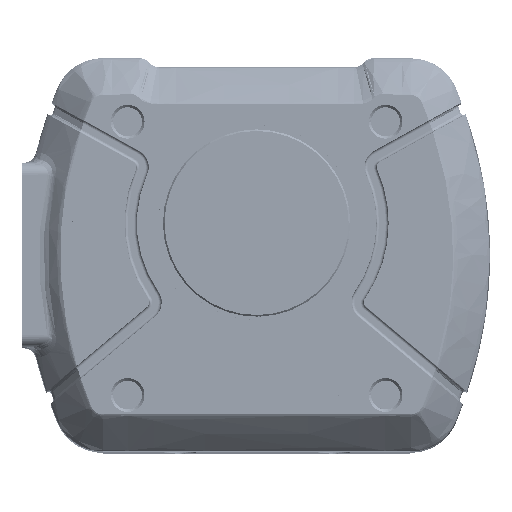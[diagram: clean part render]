
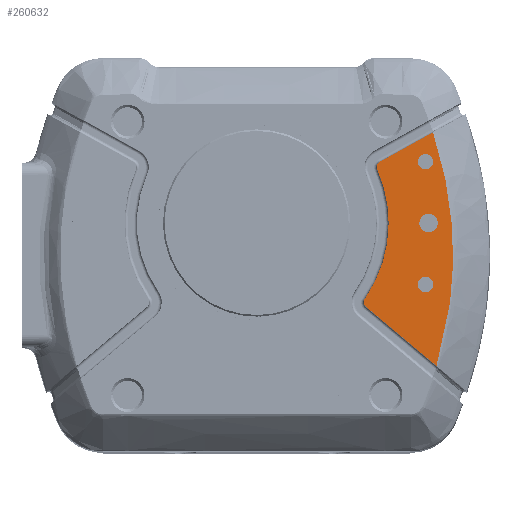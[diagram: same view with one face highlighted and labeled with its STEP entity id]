
A CAD part, top view. The second image highlights one B-rep face of the part: STEP entity #260632.
In plain terms, the highlighted planar face has unit normal (0, 0, 1).
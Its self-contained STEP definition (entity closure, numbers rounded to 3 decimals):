
#491 = ORIENTED_EDGE ( 'NONE', *, *, #39933, .F. ) ;
#782 = DIRECTION ( 'NONE',  ( 1., 0., 0. ) ) ;
#1227 = DIRECTION ( 'NONE',  ( 0., 0., -1. ) ) ;
#1568 = CARTESIAN_POINT ( 'NONE',  ( 29.285, -23.267, 13.007 ) ) ;
#3381 = VERTEX_POINT ( 'NONE', #323511 ) ;
#7298 = CARTESIAN_POINT ( 'NONE',  ( 32.089, -10.58, 13.007 ) ) ;
#26519 = DIRECTION ( 'NONE',  ( -1., 0., 0. ) ) ;
#29305 = CARTESIAN_POINT ( 'NONE',  ( 31.898, 2.078, 13.007 ) ) ;
#29607 = ORIENTED_EDGE ( 'NONE', *, *, #167687, .F. ) ;
#31731 = B_SPLINE_CURVE_WITH_KNOTS ( 'NONE', 3,
 ( #237662, #79813, #7298, #29305, #315088, #157154 ),
 .UNSPECIFIED., .F., .F.,
 ( 4, 2, 4 ),
 ( 0.134, 0.518, 0.903 ),
 .UNSPECIFIED. ) ;
#33476 = ORIENTED_EDGE ( 'NONE', *, *, #278009, .F. ) ;
#33529 = VERTEX_POINT ( 'NONE', #74221 ) ;
#39933 = EDGE_CURVE ( 'NONE', #172032, #49482, #202837, .T. ) ;
#41551 = FACE_OUTER_BOUND ( 'NONE', #44727, .T. ) ;
#42101 = CARTESIAN_POINT ( 'NONE',  ( 27.5, -10., 13.007 ) ) ;
#42900 = CIRCLE ( 'NONE', #230725, 1.5 ) ;
#44727 = EDGE_LOOP ( 'NONE', ( #212545, #68437, #270665, #318363, #150765, #29607, #203151 ) ) ;
#45174 = CARTESIAN_POINT ( 'NONE',  ( 0., 0., 13.007 ) ) ;
#45271 = CIRCLE ( 'NONE', #254721, 21.5 ) ;
#48005 = CARTESIAN_POINT ( 'NONE',  ( 20.571, 9.116, 13.007 ) ) ;
#49203 = EDGE_CURVE ( 'NONE', #217936, #3381, #59186, .T. ) ;
#49482 = VERTEX_POINT ( 'NONE', #100119 ) ;
#50279 = CARTESIAN_POINT ( 'NONE',  ( 20.086, 9.99, 13.007 ) ) ;
#53980 = CIRCLE ( 'NONE', #96993, 1.25 ) ;
#54947 = EDGE_CURVE ( 'NONE', #3381, #217936, #53980, .T. ) ;
#57446 = CARTESIAN_POINT ( 'NONE',  ( 18.453, -12.873, 13.007 ) ) ;
#57979 = EDGE_CURVE ( 'NONE', #316113, #163388, #277989, .T. ) ;
#59186 = CIRCLE ( 'NONE', #102218, 1.25 ) ;
#62013 = CARTESIAN_POINT ( 'NONE',  ( 19.656, 8.711, 13.007 ) ) ;
#63732 = VECTOR ( 'NONE', #283512, 1000. ) ;
#68437 = ORIENTED_EDGE ( 'NONE', *, *, #238107, .T. ) ;
#68784 = DIRECTION ( 'NONE',  ( 0., 0., 1. ) ) ;
#69044 = DIRECTION ( 'NONE',  ( 1., 0., 0. ) ) ;
#70136 = FACE_BOUND ( 'NONE', #130663, .T. ) ;
#74221 = CARTESIAN_POINT ( 'NONE',  ( 28.711, 14.771, 13.007 ) ) ;
#77791 = EDGE_CURVE ( 'NONE', #210709, #180640, #45271, .T. ) ;
#79813 = CARTESIAN_POINT ( 'NONE',  ( 31.186, -16.917, 13.007 ) ) ;
#81935 = DIRECTION ( 'NONE',  ( 0., 0., 1. ) ) ;
#84870 = DIRECTION ( 'NONE',  ( 0., 0., 1. ) ) ;
#85777 = AXIS2_PLACEMENT_3D ( 'NONE', #42101, #116106, #69044 ) ;
#86222 = DIRECTION ( 'NONE',  ( 0., 0., -1. ) ) ;
#88700 = VERTEX_POINT ( 'NONE', #184847 ) ;
#89841 = DIRECTION ( 'NONE',  ( 1., 0., 0. ) ) ;
#96993 = AXIS2_PLACEMENT_3D ( 'NONE', #291551, #84870, #89841 ) ;
#99516 = ORIENTED_EDGE ( 'NONE', *, *, #49203, .F. ) ;
#100119 = CARTESIAN_POINT ( 'NONE',  ( 28.75, -10., 13.007 ) ) ;
#101230 = DIRECTION ( 'NONE',  ( 0.875, 0.485, 0. ) ) ;
#101296 = EDGE_CURVE ( 'NONE', #180640, #316113, #317233, .T. ) ;
#102218 = AXIS2_PLACEMENT_3D ( 'NONE', #186135, #81935, #184466 ) ;
#104866 = DIRECTION ( 'NONE',  ( -1., 0., 0. ) ) ;
#106232 = CARTESIAN_POINT ( 'NONE',  ( -1.703, -2.087, 13.007 ) ) ;
#107848 = LINE ( 'NONE', #106232, #325991 ) ;
#107867 = DIRECTION ( 'NONE',  ( 1., 0., 0. ) ) ;
#111671 = AXIS2_PLACEMENT_3D ( 'NONE', #325870, #68784, #171292 ) ;
#116106 = DIRECTION ( 'NONE',  ( 0., 0., 1. ) ) ;
#122118 = FACE_BOUND ( 'NONE', #242983, .T. ) ;
#123228 = CARTESIAN_POINT ( 'NONE',  ( 21.5, 0., 13.007 ) ) ;
#130663 = EDGE_LOOP ( 'NONE', ( #198263, #180829 ) ) ;
#133743 = EDGE_CURVE ( 'NONE', #151091, #88700, #206296, .T. ) ;
#138716 = CARTESIAN_POINT ( 'NONE',  ( 28.75, 10., 13.007 ) ) ;
#147133 = DIRECTION ( 'NONE',  ( 0., 0., 1. ) ) ;
#150765 = ORIENTED_EDGE ( 'NONE', *, *, #57979, .T. ) ;
#151091 = VERTEX_POINT ( 'NONE', #287769 ) ;
#155926 = AXIS2_PLACEMENT_3D ( 'NONE', #45174, #1227, #26519 ) ;
#157154 = CARTESIAN_POINT ( 'NONE',  ( 28.711, 14.771, 13.007 ) ) ;
#160088 = DIRECTION ( 'NONE',  ( 0., 0., 1. ) ) ;
#163388 = VERTEX_POINT ( 'NONE', #242705 ) ;
#165196 = VERTEX_POINT ( 'NONE', #50279 ) ;
#167687 = EDGE_CURVE ( 'NONE', #253485, #163388, #300128, .T. ) ;
#167690 = CARTESIAN_POINT ( 'NONE',  ( 0., -5.16, 13.007 ) ) ;
#171116 = AXIS2_PLACEMENT_3D ( 'NONE', #48005, #231180, #782 ) ;
#171292 = DIRECTION ( 'NONE',  ( 1., 0., 0. ) ) ;
#172032 = VERTEX_POINT ( 'NONE', #180782 ) ;
#172651 = DIRECTION ( 'NONE',  ( 0., 0., 1. ) ) ;
#180640 = VERTEX_POINT ( 'NONE', #123228 ) ;
#180782 = CARTESIAN_POINT ( 'NONE',  ( 26.25, -10., 13.007 ) ) ;
#180829 = ORIENTED_EDGE ( 'NONE', *, *, #239334, .F. ) ;
#184466 = DIRECTION ( 'NONE',  ( 1., 0., 0. ) ) ;
#184847 = CARTESIAN_POINT ( 'NONE',  ( 26.5, 0., 13.007 ) ) ;
#186135 = CARTESIAN_POINT ( 'NONE',  ( 27.5, 10., 13.007 ) ) ;
#187162 = CIRCLE ( 'NONE', #171116, 1. ) ;
#198263 = ORIENTED_EDGE ( 'NONE', *, *, #133743, .F. ) ;
#202837 = CIRCLE ( 'NONE', #111671, 1.25 ) ;
#203151 = ORIENTED_EDGE ( 'NONE', *, *, #236645, .T. ) ;
#203521 = CIRCLE ( 'NONE', #85777, 1.25 ) ;
#205405 = DIRECTION ( 'NONE',  ( 0., 0., 1. ) ) ;
#206296 = CIRCLE ( 'NONE', #275901, 1.5 ) ;
#208717 = CARTESIAN_POINT ( 'NONE',  ( 28., 0., 13.007 ) ) ;
#210709 = VERTEX_POINT ( 'NONE', #62013 ) ;
#212545 = ORIENTED_EDGE ( 'NONE', *, *, #230378, .F. ) ;
#217936 = VERTEX_POINT ( 'NONE', #138716 ) ;
#219165 = CARTESIAN_POINT ( 'NONE',  ( 17.633, -12.301, 13.007 ) ) ;
#224517 = CARTESIAN_POINT ( 'NONE',  ( 3.184, -1.366, 13.007 ) ) ;
#228226 = AXIS2_PLACEMENT_3D ( 'NONE', #167690, #172651, #270158 ) ;
#230378 = EDGE_CURVE ( 'NONE', #165196, #33529, #107848, .T. ) ;
#230725 = AXIS2_PLACEMENT_3D ( 'NONE', #251187, #147133, #304963 ) ;
#231180 = DIRECTION ( 'NONE',  ( 0., 0., 1. ) ) ;
#236645 = EDGE_CURVE ( 'NONE', #253485, #33529, #31731, .T. ) ;
#237662 = CARTESIAN_POINT ( 'NONE',  ( 29.285, -23.267, 13.007 ) ) ;
#238107 = EDGE_CURVE ( 'NONE', #165196, #210709, #187162, .T. ) ;
#239334 = EDGE_CURVE ( 'NONE', #88700, #151091, #42900, .T. ) ;
#242705 = CARTESIAN_POINT ( 'NONE',  ( 17.811, -13.639, 13.007 ) ) ;
#242983 = EDGE_LOOP ( 'NONE', ( #99516, #328885 ) ) ;
#251187 = CARTESIAN_POINT ( 'NONE',  ( 28., 0., 13.007 ) ) ;
#253485 = VERTEX_POINT ( 'NONE', #1568 ) ;
#254721 = AXIS2_PLACEMENT_3D ( 'NONE', #262702, #86222, #104866 ) ;
#256692 = EDGE_LOOP ( 'NONE', ( #33476, #491 ) ) ;
#260632 = ADVANCED_FACE ( 'NONE', ( #271842, #122118, #70136, #41551 ), #323932, .T. ) ;
#262517 = DIRECTION ( 'NONE',  ( 1., 0., 0. ) ) ;
#262702 = CARTESIAN_POINT ( 'NONE',  ( 0., 0., 13.007 ) ) ;
#270158 = DIRECTION ( 'NONE',  ( 1., 0., 0. ) ) ;
#270665 = ORIENTED_EDGE ( 'NONE', *, *, #77791, .T. ) ;
#271842 = FACE_BOUND ( 'NONE', #256692, .T. ) ;
#275901 = AXIS2_PLACEMENT_3D ( 'NONE', #208717, #205405, #107867 ) ;
#277989 = CIRCLE ( 'NONE', #326267, 1. ) ;
#278009 = EDGE_CURVE ( 'NONE', #49482, #172032, #203521, .T. ) ;
#283512 = DIRECTION ( 'NONE',  ( -0.766, 0.643, 0. ) ) ;
#287769 = CARTESIAN_POINT ( 'NONE',  ( 29.5, 0., 13.007 ) ) ;
#291551 = CARTESIAN_POINT ( 'NONE',  ( 27.5, 10., 13.007 ) ) ;
#300128 = LINE ( 'NONE', #224517, #63732 ) ;
#304963 = DIRECTION ( 'NONE',  ( 1., 0., 0. ) ) ;
#315088 = CARTESIAN_POINT ( 'NONE',  ( 30.803, 8.419, 13.007 ) ) ;
#316113 = VERTEX_POINT ( 'NONE', #219165 ) ;
#317233 = CIRCLE ( 'NONE', #155926, 21.5 ) ;
#318363 = ORIENTED_EDGE ( 'NONE', *, *, #101296, .T. ) ;
#323511 = CARTESIAN_POINT ( 'NONE',  ( 26.25, 10., 13.007 ) ) ;
#323932 = PLANE ( 'NONE',  #228226 ) ;
#325870 = CARTESIAN_POINT ( 'NONE',  ( 27.5, -10., 13.007 ) ) ;
#325991 = VECTOR ( 'NONE', #101230, 1000. ) ;
#326267 = AXIS2_PLACEMENT_3D ( 'NONE', #57446, #160088, #262517 ) ;
#328885 = ORIENTED_EDGE ( 'NONE', *, *, #54947, .F. ) ;
